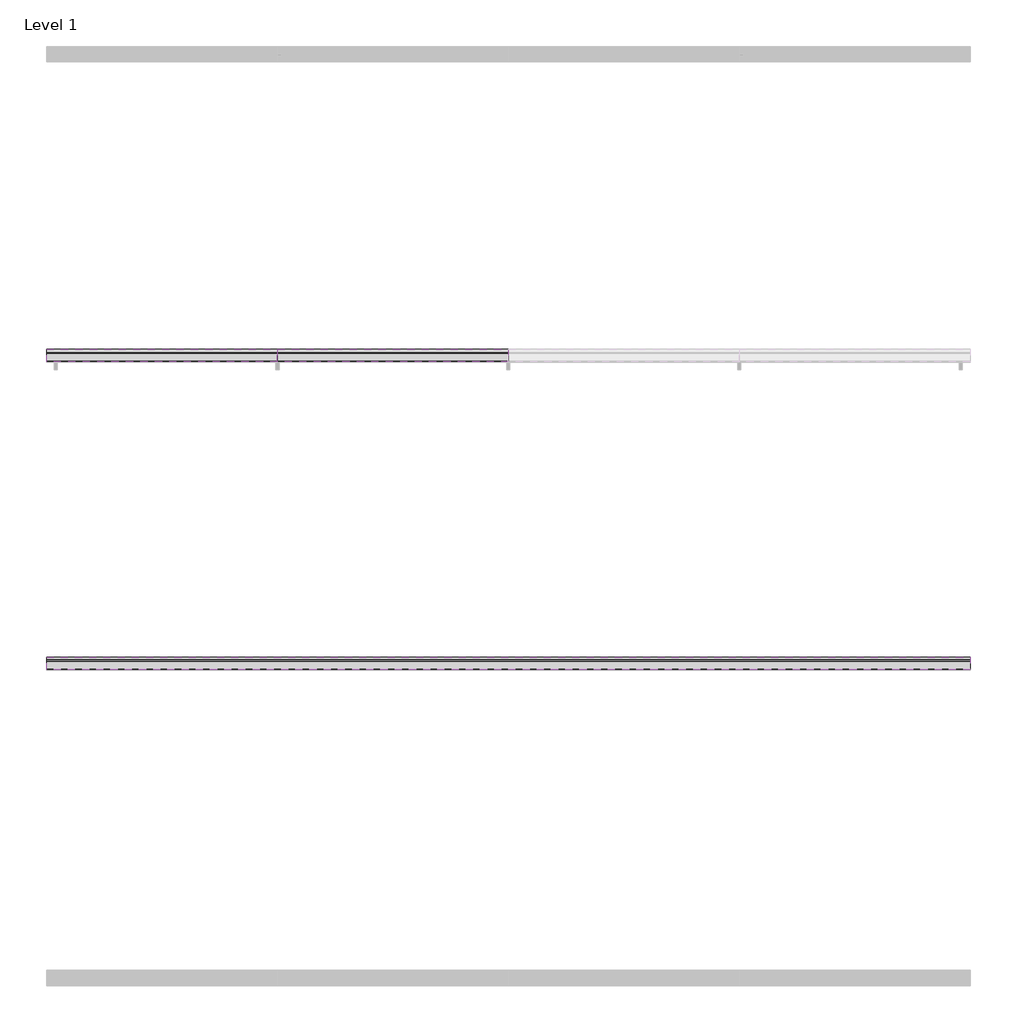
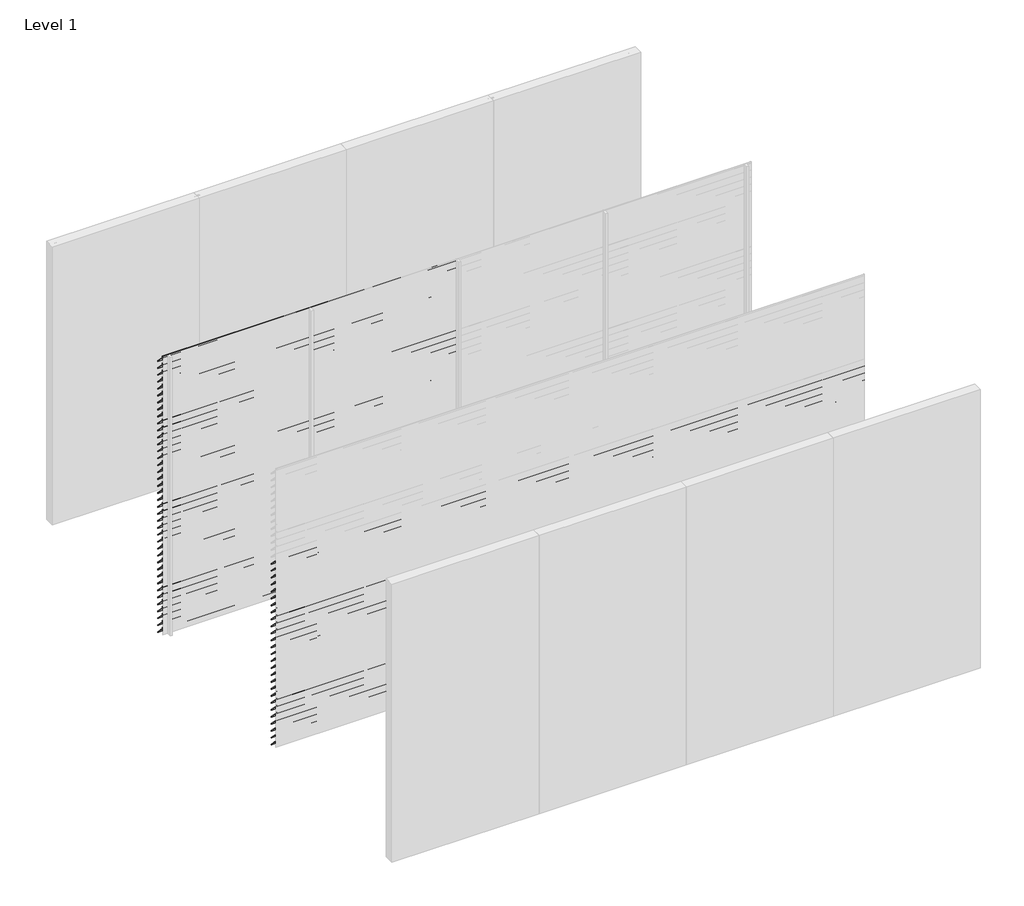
# One storey, part 6 of 9: 94 proxies.
"""IFC4 building model written with IfcOpenShell, lengths in millimetres."""

from ifc_helpers import new_model, si_unit, frame, origin, place, context, project, spatial, polyline, outline, extrude, element, save

model = new_model("IFC4")

# Units and contexts
model_context = context("Model", 3, world=origin())
ifc_project = project(units=[si_unit("LENGTHUNIT", "METRE", prefix="MILLI")], contexts=[model_context])

# Site, building, storey
site = spatial("IfcSite", under=ifc_project)
building = spatial("IfcBuilding", under=site)
storey = spatial("IfcBuildingStorey", under=building, Name="Level 1", Elevation=0.0)

# Proxies
placement = place(None, origin())
element("IfcBuildingElementProxy", 1, Name="Wall Sweeps", at=placement, inside=storey, context=model_context, shape_type="SweptSolid", body=[
    extrude(outline(polyline([(-5995.0, 3000.0), (-5995.0, 2987.7713645), (-5917.0, 2907.0), (-5917.0, 2898.0), (-5997.0, 2980.8424251), (-5997.0, 3000.0), (-5995.0, 3000.0)])), frame((0.0, 0.0, 0.0), z_axis=(1.0, 0.0, 0.0), x_axis=(0.0, 1.0, 0.0)), (0.0, 0.0, 1.0), 1500.0),
])
element("IfcBuildingElementProxy", 2, Name="Wall Sweeps", at=placement, inside=storey, context=model_context, shape_type="SweptSolid", body=[
    extrude(outline(polyline([(-5995.0, 2925.0), (-5995.0, 2912.7713645), (-5917.0, 2832.0), (-5917.0, 2823.0), (-5997.0, 2905.8424251), (-5997.0, 2925.0), (-5995.0, 2925.0)])), frame((0.0, 0.0, 0.0), z_axis=(1.0, 0.0, 0.0), x_axis=(0.0, 1.0, 0.0)), (0.0, 0.0, 1.0), 1500.0),
])
element("IfcBuildingElementProxy", 3, Name="Wall Sweeps", at=placement, inside=storey, context=model_context, shape_type="SweptSolid", body=[
    extrude(outline(polyline([(-5995.0, 2850.0), (-5995.0, 2837.7713645), (-5917.0, 2757.0), (-5917.0, 2748.0), (-5997.0, 2830.8424251), (-5997.0, 2850.0), (-5995.0, 2850.0)])), frame((0.0, 0.0, 0.0), z_axis=(1.0, 0.0, 0.0), x_axis=(0.0, 1.0, 0.0)), (0.0, 0.0, 1.0), 1500.0),
])
element("IfcBuildingElementProxy", 4, Name="Wall Sweeps", at=placement, inside=storey, context=model_context, shape_type="SweptSolid", body=[
    extrude(outline(polyline([(-5995.0, 2775.0), (-5995.0, 2762.7713645), (-5917.0, 2682.0), (-5917.0, 2673.0), (-5997.0, 2755.8424251), (-5997.0, 2775.0), (-5995.0, 2775.0)])), frame((0.0, 0.0, 0.0), z_axis=(1.0, 0.0, 0.0), x_axis=(0.0, 1.0, 0.0)), (0.0, 0.0, 1.0), 1500.0),
])
element("IfcBuildingElementProxy", 5, Name="Wall Sweeps", at=placement, inside=storey, context=model_context, shape_type="SweptSolid", body=[
    extrude(outline(polyline([(-5995.0, 2700.0), (-5995.0, 2687.7713645), (-5917.0, 2607.0), (-5917.0, 2598.0), (-5997.0, 2680.8424251), (-5997.0, 2700.0), (-5995.0, 2700.0)])), frame((0.0, 0.0, 0.0), z_axis=(1.0, 0.0, 0.0), x_axis=(0.0, 1.0, 0.0)), (0.0, 0.0, 1.0), 1500.0),
])
element("IfcBuildingElementProxy", 6, Name="Wall Sweeps", at=placement, inside=storey, context=model_context, shape_type="SweptSolid", body=[
    extrude(outline(polyline([(-5995.0, 2625.0), (-5995.0, 2612.7713645), (-5917.0, 2532.0), (-5917.0, 2523.0), (-5997.0, 2605.8424251), (-5997.0, 2625.0), (-5995.0, 2625.0)])), frame((0.0, 0.0, 0.0), z_axis=(1.0, 0.0, 0.0), x_axis=(0.0, 1.0, 0.0)), (0.0, 0.0, 1.0), 1500.0),
])
element("IfcBuildingElementProxy", 7, Name="Wall Sweeps", at=placement, inside=storey, context=model_context, shape_type="SweptSolid", body=[
    extrude(outline(polyline([(-5995.0, 2550.0), (-5995.0, 2537.7713645), (-5917.0, 2457.0), (-5917.0, 2448.0), (-5997.0, 2530.8424251), (-5997.0, 2550.0), (-5995.0, 2550.0)])), frame((0.0, 0.0, 0.0), z_axis=(1.0, 0.0, 0.0), x_axis=(0.0, 1.0, 0.0)), (0.0, 0.0, 1.0), 1500.0),
])
element("IfcBuildingElementProxy", 8, Name="Wall Sweeps", at=placement, inside=storey, context=model_context, shape_type="SweptSolid", body=[
    extrude(outline(polyline([(-5995.0, 2475.0), (-5995.0, 2462.7713645), (-5917.0, 2382.0), (-5917.0, 2373.0), (-5997.0, 2455.8424251), (-5997.0, 2475.0), (-5995.0, 2475.0)])), frame((0.0, 0.0, 0.0), z_axis=(1.0, 0.0, 0.0), x_axis=(0.0, 1.0, 0.0)), (0.0, 0.0, 1.0), 1500.0),
])
element("IfcBuildingElementProxy", 9, Name="Wall Sweeps", at=placement, inside=storey, context=model_context, shape_type="SweptSolid", body=[
    extrude(outline(polyline([(-5995.0, 2400.0), (-5995.0, 2387.7713645), (-5917.0, 2307.0), (-5917.0, 2298.0), (-5997.0, 2380.8424251), (-5997.0, 2400.0), (-5995.0, 2400.0)])), frame((0.0, 0.0, 0.0), z_axis=(1.0, 0.0, 0.0), x_axis=(0.0, 1.0, 0.0)), (0.0, 0.0, 1.0), 1500.0),
])
element("IfcBuildingElementProxy", 10, Name="Wall Sweeps", at=placement, inside=storey, context=model_context, shape_type="SweptSolid", body=[
    extrude(outline(polyline([(-5995.0, 2325.0), (-5995.0, 2312.7713645), (-5917.0, 2232.0), (-5917.0, 2223.0), (-5997.0, 2305.8424251), (-5997.0, 2325.0), (-5995.0, 2325.0)])), frame((0.0, 0.0, 0.0), z_axis=(1.0, 0.0, 0.0), x_axis=(0.0, 1.0, 0.0)), (0.0, 0.0, 1.0), 1500.0),
])
element("IfcBuildingElementProxy", 11, Name="Wall Sweeps", at=placement, inside=storey, context=model_context, shape_type="SweptSolid", body=[
    extrude(outline(polyline([(-5995.0, 2250.0), (-5995.0, 2237.7713645), (-5917.0, 2157.0), (-5917.0, 2148.0), (-5997.0, 2230.8424251), (-5997.0, 2250.0), (-5995.0, 2250.0)])), frame((0.0, 0.0, 0.0), z_axis=(1.0, 0.0, 0.0), x_axis=(0.0, 1.0, 0.0)), (0.0, 0.0, 1.0), 1500.0),
])
element("IfcBuildingElementProxy", 12, Name="Wall Sweeps", at=placement, inside=storey, context=model_context, shape_type="SweptSolid", body=[
    extrude(outline(polyline([(-5995.0, 2175.0), (-5995.0, 2162.7713645), (-5917.0, 2082.0), (-5917.0, 2073.0), (-5997.0, 2155.8424251), (-5997.0, 2175.0), (-5995.0, 2175.0)])), frame((0.0, 0.0, 0.0), z_axis=(1.0, 0.0, 0.0), x_axis=(0.0, 1.0, 0.0)), (0.0, 0.0, 1.0), 1500.0),
])
element("IfcBuildingElementProxy", 13, Name="Wall Sweeps", at=placement, inside=storey, context=model_context, shape_type="SweptSolid", body=[
    extrude(outline(polyline([(-5995.0, 2100.0), (-5995.0, 2087.7713645), (-5917.0, 2007.0), (-5917.0, 1998.0), (-5997.0, 2080.8424251), (-5997.0, 2100.0), (-5995.0, 2100.0)])), frame((0.0, 0.0, 0.0), z_axis=(1.0, 0.0, 0.0), x_axis=(0.0, 1.0, 0.0)), (0.0, 0.0, 1.0), 1500.0),
])
element("IfcBuildingElementProxy", 14, Name="Wall Sweeps", at=placement, inside=storey, context=model_context, shape_type="SweptSolid", body=[
    extrude(outline(polyline([(-5995.0, 2025.0), (-5995.0, 2012.7713645), (-5917.0, 1932.0), (-5917.0, 1923.0), (-5997.0, 2005.8424251), (-5997.0, 2025.0), (-5995.0, 2025.0)])), frame((0.0, 0.0, 0.0), z_axis=(1.0, 0.0, 0.0), x_axis=(0.0, 1.0, 0.0)), (0.0, 0.0, 1.0), 1500.0),
])
element("IfcBuildingElementProxy", 15, Name="Wall Sweeps", at=placement, inside=storey, context=model_context, shape_type="SweptSolid", body=[
    extrude(outline(polyline([(-5995.0, 1950.0), (-5995.0, 1937.7713645), (-5917.0, 1857.0), (-5917.0, 1848.0), (-5997.0, 1930.8424251), (-5997.0, 1950.0), (-5995.0, 1950.0)])), frame((0.0, 0.0, 0.0), z_axis=(1.0, 0.0, 0.0), x_axis=(0.0, 1.0, 0.0)), (0.0, 0.0, 1.0), 1500.0),
])
element("IfcBuildingElementProxy", 16, Name="Wall Sweeps", at=placement, inside=storey, context=model_context, shape_type="SweptSolid", body=[
    extrude(outline(polyline([(-5995.0, 1875.0), (-5995.0, 1862.7713645), (-5917.0, 1782.0), (-5917.0, 1773.0), (-5997.0, 1855.8424251), (-5997.0, 1875.0), (-5995.0, 1875.0)])), frame((0.0, 0.0, 0.0), z_axis=(1.0, 0.0, 0.0), x_axis=(0.0, 1.0, 0.0)), (0.0, 0.0, 1.0), 1500.0),
])
element("IfcBuildingElementProxy", 17, Name="Wall Sweeps", at=placement, inside=storey, context=model_context, shape_type="SweptSolid", body=[
    extrude(outline(polyline([(-5995.0, 1800.0), (-5995.0, 1787.7713645), (-5917.0, 1707.0), (-5917.0, 1698.0), (-5997.0, 1780.8424251), (-5997.0, 1800.0), (-5995.0, 1800.0)])), frame((0.0, 0.0, 0.0), z_axis=(1.0, 0.0, 0.0), x_axis=(0.0, 1.0, 0.0)), (0.0, 0.0, 1.0), 1500.0),
])
element("IfcBuildingElementProxy", 18, Name="Wall Sweeps", at=placement, inside=storey, context=model_context, shape_type="SweptSolid", body=[
    extrude(outline(polyline([(-5995.0, 1725.0), (-5995.0, 1712.7713645), (-5917.0, 1632.0), (-5917.0, 1623.0), (-5997.0, 1705.8424251), (-5997.0, 1725.0), (-5995.0, 1725.0)])), frame((0.0, 0.0, 0.0), z_axis=(1.0, 0.0, 0.0), x_axis=(0.0, 1.0, 0.0)), (0.0, 0.0, 1.0), 1500.0),
])
element("IfcBuildingElementProxy", 19, Name="Wall Sweeps", at=placement, inside=storey, context=model_context, shape_type="SweptSolid", body=[
    extrude(outline(polyline([(-5995.0, 1650.0), (-5995.0, 1637.7713645), (-5917.0, 1557.0), (-5917.0, 1548.0), (-5997.0, 1630.8424251), (-5997.0, 1650.0), (-5995.0, 1650.0)])), frame((0.0, 0.0, 0.0), z_axis=(1.0, 0.0, 0.0), x_axis=(0.0, 1.0, 0.0)), (0.0, 0.0, 1.0), 1500.0),
])
element("IfcBuildingElementProxy", 20, Name="Wall Sweeps", at=placement, inside=storey, context=model_context, shape_type="SweptSolid", body=[
    extrude(outline(polyline([(-5995.0, 1575.0), (-5995.0, 1562.7713645), (-5917.0, 1482.0), (-5917.0, 1473.0), (-5997.0, 1555.8424251), (-5997.0, 1575.0), (-5995.0, 1575.0)])), frame((0.0, 0.0, 0.0), z_axis=(1.0, 0.0, 0.0), x_axis=(0.0, 1.0, 0.0)), (0.0, 0.0, 1.0), 1500.0),
])
element("IfcBuildingElementProxy", 21, Name="Wall Sweeps", at=placement, inside=storey, context=model_context, shape_type="SweptSolid", body=[
    extrude(outline(polyline([(-5995.0, 1500.0), (-5995.0, 1487.7713645), (-5917.0, 1407.0), (-5917.0, 1398.0), (-5997.0, 1480.8424251), (-5997.0, 1500.0), (-5995.0, 1500.0)])), frame((0.0, 0.0, 0.0), z_axis=(1.0, 0.0, 0.0), x_axis=(0.0, 1.0, 0.0)), (0.0, 0.0, 1.0), 1500.0),
])
element("IfcBuildingElementProxy", 22, Name="Wall Sweeps", at=placement, inside=storey, context=model_context, shape_type="SweptSolid", body=[
    extrude(outline(polyline([(-5995.0, 1425.0), (-5995.0, 1412.7713645), (-5917.0, 1332.0), (-5917.0, 1323.0), (-5997.0, 1405.8424251), (-5997.0, 1425.0), (-5995.0, 1425.0)])), frame((0.0, 0.0, 0.0), z_axis=(1.0, 0.0, 0.0), x_axis=(0.0, 1.0, 0.0)), (0.0, 0.0, 1.0), 1500.0),
])
element("IfcBuildingElementProxy", 23, Name="Wall Sweeps", at=placement, inside=storey, context=model_context, shape_type="SweptSolid", body=[
    extrude(outline(polyline([(-5995.0, 1350.0), (-5995.0, 1337.7713645), (-5917.0, 1257.0), (-5917.0, 1248.0), (-5997.0, 1330.8424251), (-5997.0, 1350.0), (-5995.0, 1350.0)])), frame((0.0, 0.0, 0.0), z_axis=(1.0, 0.0, 0.0), x_axis=(0.0, 1.0, 0.0)), (0.0, 0.0, 1.0), 1500.0),
])
element("IfcBuildingElementProxy", 24, Name="Wall Sweeps", at=placement, inside=storey, context=model_context, shape_type="SweptSolid", body=[
    extrude(outline(polyline([(-5995.0, 1275.0), (-5995.0, 1262.7713645), (-5917.0, 1182.0), (-5917.0, 1173.0), (-5997.0, 1255.8424251), (-5997.0, 1275.0), (-5995.0, 1275.0)])), frame((0.0, 0.0, 0.0), z_axis=(1.0, 0.0, 0.0), x_axis=(0.0, 1.0, 0.0)), (0.0, 0.0, 1.0), 1500.0),
])
element("IfcBuildingElementProxy", 25, Name="Wall Sweeps", at=placement, inside=storey, context=model_context, shape_type="SweptSolid", body=[
    extrude(outline(polyline([(-5995.0, 1200.0), (-5995.0, 1187.7713645), (-5917.0, 1107.0), (-5917.0, 1098.0), (-5997.0, 1180.8424251), (-5997.0, 1200.0), (-5995.0, 1200.0)])), frame((0.0, 0.0, 0.0), z_axis=(1.0, 0.0, 0.0), x_axis=(0.0, 1.0, 0.0)), (0.0, 0.0, 1.0), 1500.0),
])
element("IfcBuildingElementProxy", 26, Name="Wall Sweeps", at=placement, inside=storey, context=model_context, shape_type="SweptSolid", body=[
    extrude(outline(polyline([(-5995.0, 1125.0), (-5995.0, 1112.7713645), (-5917.0, 1032.0), (-5917.0, 1023.0), (-5997.0, 1105.8424251), (-5997.0, 1125.0), (-5995.0, 1125.0)])), frame((0.0, 0.0, 0.0), z_axis=(1.0, 0.0, 0.0), x_axis=(0.0, 1.0, 0.0)), (0.0, 0.0, 1.0), 1500.0),
])
element("IfcBuildingElementProxy", 27, Name="Wall Sweeps", at=placement, inside=storey, context=model_context, shape_type="SweptSolid", body=[
    extrude(outline(polyline([(-5995.0, 1050.0), (-5995.0, 1037.7713645), (-5917.0, 957.0), (-5917.0, 948.0), (-5997.0, 1030.8424251), (-5997.0, 1050.0), (-5995.0, 1050.0)])), frame((0.0, 0.0, 0.0), z_axis=(1.0, 0.0, 0.0), x_axis=(0.0, 1.0, 0.0)), (0.0, 0.0, 1.0), 1500.0),
])
element("IfcBuildingElementProxy", 28, Name="Wall Sweeps", at=placement, inside=storey, context=model_context, shape_type="SweptSolid", body=[
    extrude(outline(polyline([(-5995.0, 975.0), (-5995.0, 962.7713645), (-5917.0, 882.0), (-5917.0, 873.0), (-5997.0, 955.8424251), (-5997.0, 975.0), (-5995.0, 975.0)])), frame((0.0, 0.0, 0.0), z_axis=(1.0, 0.0, 0.0), x_axis=(0.0, 1.0, 0.0)), (0.0, 0.0, 1.0), 1500.0),
])
element("IfcBuildingElementProxy", 29, Name="Wall Sweeps", at=placement, inside=storey, context=model_context, shape_type="SweptSolid", body=[
    extrude(outline(polyline([(-5995.0, 900.0), (-5995.0, 887.7713645), (-5917.0, 807.0), (-5917.0, 798.0), (-5997.0, 880.8424251), (-5997.0, 900.0), (-5995.0, 900.0)])), frame((0.0, 0.0, 0.0), z_axis=(1.0, 0.0, 0.0), x_axis=(0.0, 1.0, 0.0)), (0.0, 0.0, 1.0), 1500.0),
])
element("IfcBuildingElementProxy", 30, Name="Wall Sweeps", at=placement, inside=storey, context=model_context, shape_type="SweptSolid", body=[
    extrude(outline(polyline([(-5995.0, 825.0), (-5995.0, 812.7713645), (-5917.0, 732.0), (-5917.0, 723.0), (-5997.0, 805.8424251), (-5997.0, 825.0), (-5995.0, 825.0)])), frame((0.0, 0.0, 0.0), z_axis=(1.0, 0.0, 0.0), x_axis=(0.0, 1.0, 0.0)), (0.0, 0.0, 1.0), 1500.0),
])
element("IfcBuildingElementProxy", 31, Name="Wall Sweeps", at=placement, inside=storey, context=model_context, shape_type="SweptSolid", body=[
    extrude(outline(polyline([(-5995.0, 750.0), (-5995.0, 737.7713645), (-5917.0, 657.0), (-5917.0, 648.0), (-5997.0, 730.8424251), (-5997.0, 750.0), (-5995.0, 750.0)])), frame((0.0, 0.0, 0.0), z_axis=(1.0, 0.0, 0.0), x_axis=(0.0, 1.0, 0.0)), (0.0, 0.0, 1.0), 1500.0),
])
element("IfcBuildingElementProxy", 32, Name="Wall Sweeps", at=placement, inside=storey, context=model_context, shape_type="SweptSolid", body=[
    extrude(outline(polyline([(-5995.0, 675.0), (-5995.0, 662.7713645), (-5917.0, 582.0), (-5917.0, 573.0), (-5997.0, 655.8424251), (-5997.0, 675.0), (-5995.0, 675.0)])), frame((0.0, 0.0, 0.0), z_axis=(1.0, 0.0, 0.0), x_axis=(0.0, 1.0, 0.0)), (0.0, 0.0, 1.0), 1500.0),
])
element("IfcBuildingElementProxy", 33, Name="Wall Sweeps", at=placement, inside=storey, context=model_context, shape_type="SweptSolid", body=[
    extrude(outline(polyline([(-5995.0, 600.0), (-5995.0, 587.7713645), (-5917.0, 507.0), (-5917.0, 498.0), (-5997.0, 580.8424251), (-5997.0, 600.0), (-5995.0, 600.0)])), frame((0.0, 0.0, 0.0), z_axis=(1.0, 0.0, 0.0), x_axis=(0.0, 1.0, 0.0)), (0.0, 0.0, 1.0), 1500.0),
])
element("IfcBuildingElementProxy", 34, Name="Wall Sweeps", at=placement, inside=storey, context=model_context, shape_type="SweptSolid", body=[
    extrude(outline(polyline([(-5995.0, 525.0), (-5995.0, 512.7713645), (-5917.0, 432.0), (-5917.0, 423.0), (-5997.0, 505.8424251), (-5997.0, 525.0), (-5995.0, 525.0)])), frame((0.0, 0.0, 0.0), z_axis=(1.0, 0.0, 0.0), x_axis=(0.0, 1.0, 0.0)), (0.0, 0.0, 1.0), 1500.0),
])
element("IfcBuildingElementProxy", 35, Name="Wall Sweeps", at=placement, inside=storey, context=model_context, shape_type="SweptSolid", body=[
    extrude(outline(polyline([(-5995.0, 450.0), (-5995.0, 437.7713645), (-5917.0, 357.0), (-5917.0, 348.0), (-5997.0, 430.8424251), (-5997.0, 450.0), (-5995.0, 450.0)])), frame((0.0, 0.0, 0.0), z_axis=(1.0, 0.0, 0.0), x_axis=(0.0, 1.0, 0.0)), (0.0, 0.0, 1.0), 1500.0),
])
element("IfcBuildingElementProxy", 36, Name="Wall Sweeps", at=placement, inside=storey, context=model_context, shape_type="SweptSolid", body=[
    extrude(outline(polyline([(-5995.0, 375.0), (-5995.0, 362.7713645), (-5917.0, 282.0), (-5917.0, 273.0), (-5997.0, 355.8424251), (-5997.0, 375.0), (-5995.0, 375.0)])), frame((0.0, 0.0, 0.0), z_axis=(1.0, 0.0, 0.0), x_axis=(0.0, 1.0, 0.0)), (0.0, 0.0, 1.0), 1500.0),
])
element("IfcBuildingElementProxy", 37, Name="Wall Sweeps", at=placement, inside=storey, context=model_context, shape_type="SweptSolid", body=[
    extrude(outline(polyline([(-5995.0, 300.0), (-5995.0, 287.7713645), (-5917.0, 207.0), (-5917.0, 198.0), (-5997.0, 280.8424251), (-5997.0, 300.0), (-5995.0, 300.0)])), frame((0.0, 0.0, 0.0), z_axis=(1.0, 0.0, 0.0), x_axis=(0.0, 1.0, 0.0)), (0.0, 0.0, 1.0), 1500.0),
])
element("IfcBuildingElementProxy", 38, Name="Wall Sweeps", at=placement, inside=storey, context=model_context, shape_type="SweptSolid", body=[
    extrude(outline(polyline([(-5995.0, 225.0), (-5995.0, 212.7713645), (-5917.0, 132.0), (-5917.0, 123.0), (-5997.0, 205.8424251), (-5997.0, 225.0), (-5995.0, 225.0)])), frame((0.0, 0.0, 0.0), z_axis=(1.0, 0.0, 0.0), x_axis=(0.0, 1.0, 0.0)), (0.0, 0.0, 1.0), 1500.0),
])
element("IfcBuildingElementProxy", 39, Name="Wall Sweeps", at=placement, inside=storey, context=model_context, shape_type="SweptSolid", body=[
    extrude(outline(polyline([(-5995.0, 150.0), (-5995.0, 137.7713645), (-5917.0, 57.0), (-5917.0, 48.0), (-5997.0, 130.8424251), (-5997.0, 150.0), (-5995.0, 150.0)])), frame((0.0, 0.0, 0.0), z_axis=(1.0, 0.0, 0.0), x_axis=(0.0, 1.0, 0.0)), (0.0, 0.0, 1.0), 1500.0),
])
element("IfcBuildingElementProxy", 40, Name="Wall Sweeps", at=placement, inside=storey, context=model_context, shape_type="SweptSolid", body=[
    extrude(outline(polyline([(-5995.0, 75.0), (-5995.0, 62.7713645), (-5917.0, -18.0), (-5917.0, -27.0), (-5997.0, 55.8424251), (-5997.0, 75.0), (-5995.0, 75.0)])), frame((0.0, 0.0, 0.0), z_axis=(1.0, 0.0, 0.0), x_axis=(0.0, 1.0, 0.0)), (0.0, 0.0, 1.0), 1500.0),
])
element("IfcBuildingElementProxy", 41, Name="Wall Sweeps", at=placement, inside=storey, context=model_context, shape_type="SweptSolid", body=[
    extrude(outline(polyline([(-5995.0, 3000.0), (-5995.0, 2987.7713645), (-5917.0, 2907.0), (-5917.0, 2898.0), (-5997.0, 2980.8424251), (-5997.0, 3000.0), (-5995.0, 3000.0)])), frame((1500.0, 0.0, 0.0), z_axis=(1.0, 0.0, 0.0), x_axis=(0.0, 1.0, 0.0)), (0.0, 0.0, 1.0), 1500.0),
])
element("IfcBuildingElementProxy", 42, Name="Wall Sweeps", at=placement, inside=storey, context=model_context, shape_type="SweptSolid", body=[
    extrude(outline(polyline([(-5995.0, 2925.0), (-5995.0, 2912.7713645), (-5917.0, 2832.0), (-5917.0, 2823.0), (-5997.0, 2905.8424251), (-5997.0, 2925.0), (-5995.0, 2925.0)])), frame((1500.0, 0.0, 0.0), z_axis=(1.0, 0.0, 0.0), x_axis=(0.0, 1.0, 0.0)), (0.0, 0.0, 1.0), 1500.0),
])
element("IfcBuildingElementProxy", 43, Name="Wall Sweeps", at=placement, inside=storey, context=model_context, shape_type="SweptSolid", body=[
    extrude(outline(polyline([(-5995.0, 2850.0), (-5995.0, 2837.7713645), (-5917.0, 2757.0), (-5917.0, 2748.0), (-5997.0, 2830.8424251), (-5997.0, 2850.0), (-5995.0, 2850.0)])), frame((1500.0, 0.0, 0.0), z_axis=(1.0, 0.0, 0.0), x_axis=(0.0, 1.0, 0.0)), (0.0, 0.0, 1.0), 1500.0),
])
element("IfcBuildingElementProxy", 44, Name="Wall Sweeps", at=placement, inside=storey, context=model_context, shape_type="SweptSolid", body=[
    extrude(outline(polyline([(-5995.0, 2775.0), (-5995.0, 2762.7713645), (-5917.0, 2682.0), (-5917.0, 2673.0), (-5997.0, 2755.8424251), (-5997.0, 2775.0), (-5995.0, 2775.0)])), frame((1500.0, 0.0, 0.0), z_axis=(1.0, 0.0, 0.0), x_axis=(0.0, 1.0, 0.0)), (0.0, 0.0, 1.0), 1500.0),
])
element("IfcBuildingElementProxy", 45, Name="Wall Sweeps", at=placement, inside=storey, context=model_context, shape_type="SweptSolid", body=[
    extrude(outline(polyline([(-5995.0, 2700.0), (-5995.0, 2687.7713645), (-5917.0, 2607.0), (-5917.0, 2598.0), (-5997.0, 2680.8424251), (-5997.0, 2700.0), (-5995.0, 2700.0)])), frame((1500.0, 0.0, 0.0), z_axis=(1.0, 0.0, 0.0), x_axis=(0.0, 1.0, 0.0)), (0.0, 0.0, 1.0), 1500.0),
])
element("IfcBuildingElementProxy", 46, Name="Wall Sweeps", at=placement, inside=storey, context=model_context, shape_type="SweptSolid", body=[
    extrude(outline(polyline([(-5995.0, 2625.0), (-5995.0, 2612.7713645), (-5917.0, 2532.0), (-5917.0, 2523.0), (-5997.0, 2605.8424251), (-5997.0, 2625.0), (-5995.0, 2625.0)])), frame((1500.0, 0.0, 0.0), z_axis=(1.0, 0.0, 0.0), x_axis=(0.0, 1.0, 0.0)), (0.0, 0.0, 1.0), 1500.0),
])
element("IfcBuildingElementProxy", 47, Name="Wall Sweeps", at=placement, inside=storey, context=model_context, shape_type="SweptSolid", body=[
    extrude(outline(polyline([(-5995.0, 2550.0), (-5995.0, 2537.7713645), (-5917.0, 2457.0), (-5917.0, 2448.0), (-5997.0, 2530.8424251), (-5997.0, 2550.0), (-5995.0, 2550.0)])), frame((1500.0, 0.0, 0.0), z_axis=(1.0, 0.0, 0.0), x_axis=(0.0, 1.0, 0.0)), (0.0, 0.0, 1.0), 1500.0),
])
element("IfcBuildingElementProxy", 48, Name="Wall Sweeps", at=placement, inside=storey, context=model_context, shape_type="SweptSolid", body=[
    extrude(outline(polyline([(-5995.0, 2475.0), (-5995.0, 2462.7713645), (-5917.0, 2382.0), (-5917.0, 2373.0), (-5997.0, 2455.8424251), (-5997.0, 2475.0), (-5995.0, 2475.0)])), frame((1500.0, 0.0, 0.0), z_axis=(1.0, 0.0, 0.0), x_axis=(0.0, 1.0, 0.0)), (0.0, 0.0, 1.0), 1500.0),
])
element("IfcBuildingElementProxy", 49, Name="Wall Sweeps", at=placement, inside=storey, context=model_context, shape_type="SweptSolid", body=[
    extrude(outline(polyline([(-5995.0, 2400.0), (-5995.0, 2387.7713645), (-5917.0, 2307.0), (-5917.0, 2298.0), (-5997.0, 2380.8424251), (-5997.0, 2400.0), (-5995.0, 2400.0)])), frame((1500.0, 0.0, 0.0), z_axis=(1.0, 0.0, 0.0), x_axis=(0.0, 1.0, 0.0)), (0.0, 0.0, 1.0), 1500.0),
])
element("IfcBuildingElementProxy", 50, Name="Wall Sweeps", at=placement, inside=storey, context=model_context, shape_type="SweptSolid", body=[
    extrude(outline(polyline([(-5995.0, 2325.0), (-5995.0, 2312.7713645), (-5917.0, 2232.0), (-5917.0, 2223.0), (-5997.0, 2305.8424251), (-5997.0, 2325.0), (-5995.0, 2325.0)])), frame((1500.0, 0.0, 0.0), z_axis=(1.0, 0.0, 0.0), x_axis=(0.0, 1.0, 0.0)), (0.0, 0.0, 1.0), 1500.0),
])
element("IfcBuildingElementProxy", 51, Name="Wall Sweeps", at=placement, inside=storey, context=model_context, shape_type="SweptSolid", body=[
    extrude(outline(polyline([(-5995.0, 2250.0), (-5995.0, 2237.7713645), (-5917.0, 2157.0), (-5917.0, 2148.0), (-5997.0, 2230.8424251), (-5997.0, 2250.0), (-5995.0, 2250.0)])), frame((1500.0, 0.0, 0.0), z_axis=(1.0, 0.0, 0.0), x_axis=(0.0, 1.0, 0.0)), (0.0, 0.0, 1.0), 1500.0),
])
element("IfcBuildingElementProxy", 52, Name="Wall Sweeps", at=placement, inside=storey, context=model_context, shape_type="SweptSolid", body=[
    extrude(outline(polyline([(-5995.0, 2175.0), (-5995.0, 2162.7713645), (-5917.0, 2082.0), (-5917.0, 2073.0), (-5997.0, 2155.8424251), (-5997.0, 2175.0), (-5995.0, 2175.0)])), frame((1500.0, 0.0, 0.0), z_axis=(1.0, 0.0, 0.0), x_axis=(0.0, 1.0, 0.0)), (0.0, 0.0, 1.0), 1500.0),
])
element("IfcBuildingElementProxy", 53, Name="Wall Sweeps", at=placement, inside=storey, context=model_context, shape_type="SweptSolid", body=[
    extrude(outline(polyline([(-5995.0, 2100.0), (-5995.0, 2087.7713645), (-5917.0, 2007.0), (-5917.0, 1998.0), (-5997.0, 2080.8424251), (-5997.0, 2100.0), (-5995.0, 2100.0)])), frame((1500.0, 0.0, 0.0), z_axis=(1.0, 0.0, 0.0), x_axis=(0.0, 1.0, 0.0)), (0.0, 0.0, 1.0), 1500.0),
])
element("IfcBuildingElementProxy", 54, Name="Wall Sweeps", at=placement, inside=storey, context=model_context, shape_type="SweptSolid", body=[
    extrude(outline(polyline([(-5995.0, 2025.0), (-5995.0, 2012.7713645), (-5917.0, 1932.0), (-5917.0, 1923.0), (-5997.0, 2005.8424251), (-5997.0, 2025.0), (-5995.0, 2025.0)])), frame((1500.0, 0.0, 0.0), z_axis=(1.0, 0.0, 0.0), x_axis=(0.0, 1.0, 0.0)), (0.0, 0.0, 1.0), 1500.0),
])
element("IfcBuildingElementProxy", 55, Name="Wall Sweeps", at=placement, inside=storey, context=model_context, shape_type="SweptSolid", body=[
    extrude(outline(polyline([(-5995.0, 1950.0), (-5995.0, 1937.7713645), (-5917.0, 1857.0), (-5917.0, 1848.0), (-5997.0, 1930.8424251), (-5997.0, 1950.0), (-5995.0, 1950.0)])), frame((1500.0, 0.0, 0.0), z_axis=(1.0, 0.0, 0.0), x_axis=(0.0, 1.0, 0.0)), (0.0, 0.0, 1.0), 1500.0),
])
element("IfcBuildingElementProxy", 56, Name="Wall Sweeps", at=placement, inside=storey, context=model_context, shape_type="SweptSolid", body=[
    extrude(outline(polyline([(-5995.0, 1875.0), (-5995.0, 1862.7713645), (-5917.0, 1782.0), (-5917.0, 1773.0), (-5997.0, 1855.8424251), (-5997.0, 1875.0), (-5995.0, 1875.0)])), frame((1500.0, 0.0, 0.0), z_axis=(1.0, 0.0, 0.0), x_axis=(0.0, 1.0, 0.0)), (0.0, 0.0, 1.0), 1500.0),
])
element("IfcBuildingElementProxy", 57, Name="Wall Sweeps", at=placement, inside=storey, context=model_context, shape_type="SweptSolid", body=[
    extrude(outline(polyline([(-5995.0, 1800.0), (-5995.0, 1787.7713645), (-5917.0, 1707.0), (-5917.0, 1698.0), (-5997.0, 1780.8424251), (-5997.0, 1800.0), (-5995.0, 1800.0)])), frame((1500.0, 0.0, 0.0), z_axis=(1.0, 0.0, 0.0), x_axis=(0.0, 1.0, 0.0)), (0.0, 0.0, 1.0), 1500.0),
])
element("IfcBuildingElementProxy", 58, Name="Wall Sweeps", at=placement, inside=storey, context=model_context, shape_type="SweptSolid", body=[
    extrude(outline(polyline([(-5995.0, 1725.0), (-5995.0, 1712.7713645), (-5917.0, 1632.0), (-5917.0, 1623.0), (-5997.0, 1705.8424251), (-5997.0, 1725.0), (-5995.0, 1725.0)])), frame((1500.0, 0.0, 0.0), z_axis=(1.0, 0.0, 0.0), x_axis=(0.0, 1.0, 0.0)), (0.0, 0.0, 1.0), 1500.0),
])
element("IfcBuildingElementProxy", 59, Name="Wall Sweeps", at=placement, inside=storey, context=model_context, shape_type="SweptSolid", body=[
    extrude(outline(polyline([(-5995.0, 1650.0), (-5995.0, 1637.7713645), (-5917.0, 1557.0), (-5917.0, 1548.0), (-5997.0, 1630.8424251), (-5997.0, 1650.0), (-5995.0, 1650.0)])), frame((1500.0, 0.0, 0.0), z_axis=(1.0, 0.0, 0.0), x_axis=(0.0, 1.0, 0.0)), (0.0, 0.0, 1.0), 1500.0),
])
element("IfcBuildingElementProxy", 60, Name="Wall Sweeps", at=placement, inside=storey, context=model_context, shape_type="SweptSolid", body=[
    extrude(outline(polyline([(-5995.0, 1575.0), (-5995.0, 1562.7713645), (-5917.0, 1482.0), (-5917.0, 1473.0), (-5997.0, 1555.8424251), (-5997.0, 1575.0), (-5995.0, 1575.0)])), frame((1500.0, 0.0, 0.0), z_axis=(1.0, 0.0, 0.0), x_axis=(0.0, 1.0, 0.0)), (0.0, 0.0, 1.0), 1500.0),
])
element("IfcBuildingElementProxy", 61, Name="Wall Sweeps", at=placement, inside=storey, context=model_context, shape_type="SweptSolid", body=[
    extrude(outline(polyline([(-5995.0, 1500.0), (-5995.0, 1487.7713645), (-5917.0, 1407.0), (-5917.0, 1398.0), (-5997.0, 1480.8424251), (-5997.0, 1500.0), (-5995.0, 1500.0)])), frame((1500.0, 0.0, 0.0), z_axis=(1.0, 0.0, 0.0), x_axis=(0.0, 1.0, 0.0)), (0.0, 0.0, 1.0), 1500.0),
])
element("IfcBuildingElementProxy", 62, Name="Wall Sweeps", at=placement, inside=storey, context=model_context, shape_type="SweptSolid", body=[
    extrude(outline(polyline([(-5995.0, 1425.0), (-5995.0, 1412.7713645), (-5917.0, 1332.0), (-5917.0, 1323.0), (-5997.0, 1405.8424251), (-5997.0, 1425.0), (-5995.0, 1425.0)])), frame((1500.0, 0.0, 0.0), z_axis=(1.0, 0.0, 0.0), x_axis=(0.0, 1.0, 0.0)), (0.0, 0.0, 1.0), 1500.0),
])
element("IfcBuildingElementProxy", 63, Name="Wall Sweeps", at=placement, inside=storey, context=model_context, shape_type="SweptSolid", body=[
    extrude(outline(polyline([(-5995.0, 1350.0), (-5995.0, 1337.7713645), (-5917.0, 1257.0), (-5917.0, 1248.0), (-5997.0, 1330.8424251), (-5997.0, 1350.0), (-5995.0, 1350.0)])), frame((1500.0, 0.0, 0.0), z_axis=(1.0, 0.0, 0.0), x_axis=(0.0, 1.0, 0.0)), (0.0, 0.0, 1.0), 1500.0),
])
element("IfcBuildingElementProxy", 64, Name="Wall Sweeps", at=placement, inside=storey, context=model_context, shape_type="SweptSolid", body=[
    extrude(outline(polyline([(-5995.0, 1275.0), (-5995.0, 1262.7713645), (-5917.0, 1182.0), (-5917.0, 1173.0), (-5997.0, 1255.8424251), (-5997.0, 1275.0), (-5995.0, 1275.0)])), frame((1500.0, 0.0, 0.0), z_axis=(1.0, 0.0, 0.0), x_axis=(0.0, 1.0, 0.0)), (0.0, 0.0, 1.0), 1500.0),
])
element("IfcBuildingElementProxy", 65, Name="Wall Sweeps", at=placement, inside=storey, context=model_context, shape_type="SweptSolid", body=[
    extrude(outline(polyline([(-5995.0, 1200.0), (-5995.0, 1187.7713645), (-5917.0, 1107.0), (-5917.0, 1098.0), (-5997.0, 1180.8424251), (-5997.0, 1200.0), (-5995.0, 1200.0)])), frame((1500.0, 0.0, 0.0), z_axis=(1.0, 0.0, 0.0), x_axis=(0.0, 1.0, 0.0)), (0.0, 0.0, 1.0), 1500.0),
])
element("IfcBuildingElementProxy", 66, Name="Wall Sweeps", at=placement, inside=storey, context=model_context, shape_type="SweptSolid", body=[
    extrude(outline(polyline([(-5995.0, 1125.0), (-5995.0, 1112.7713645), (-5917.0, 1032.0), (-5917.0, 1023.0), (-5997.0, 1105.8424251), (-5997.0, 1125.0), (-5995.0, 1125.0)])), frame((1500.0, 0.0, 0.0), z_axis=(1.0, 0.0, 0.0), x_axis=(0.0, 1.0, 0.0)), (0.0, 0.0, 1.0), 1500.0),
])
element("IfcBuildingElementProxy", 67, Name="Wall Sweeps", at=placement, inside=storey, context=model_context, shape_type="SweptSolid", body=[
    extrude(outline(polyline([(-5995.0, 1050.0), (-5995.0, 1037.7713645), (-5917.0, 957.0), (-5917.0, 948.0), (-5997.0, 1030.8424251), (-5997.0, 1050.0), (-5995.0, 1050.0)])), frame((1500.0, 0.0, 0.0), z_axis=(1.0, 0.0, 0.0), x_axis=(0.0, 1.0, 0.0)), (0.0, 0.0, 1.0), 1500.0),
])
element("IfcBuildingElementProxy", 68, Name="Wall Sweeps", at=placement, inside=storey, context=model_context, shape_type="SweptSolid", body=[
    extrude(outline(polyline([(-7995.0, 2025.0), (-7995.0, 2012.7713645), (-7917.0, 1932.0), (-7917.0, 1923.0), (-7997.0, 2005.8424251), (-7997.0, 2025.0), (-7995.0, 2025.0)])), frame((0.0, 0.0, 0.0), z_axis=(1.0, 0.0, 0.0), x_axis=(0.0, 1.0, 0.0)), (0.0, 0.0, 1.0), 6000.0),
])
element("IfcBuildingElementProxy", 69, Name="Wall Sweeps", at=placement, inside=storey, context=model_context, shape_type="SweptSolid", body=[
    extrude(outline(polyline([(-7995.0, 1950.0), (-7995.0, 1937.7713645), (-7917.0, 1857.0), (-7917.0, 1848.0), (-7997.0, 1930.8424251), (-7997.0, 1950.0), (-7995.0, 1950.0)])), frame((0.0, 0.0, 0.0), z_axis=(1.0, 0.0, 0.0), x_axis=(0.0, 1.0, 0.0)), (0.0, 0.0, 1.0), 6000.0),
])
element("IfcBuildingElementProxy", 70, Name="Wall Sweeps", at=placement, inside=storey, context=model_context, shape_type="SweptSolid", body=[
    extrude(outline(polyline([(-7995.0, 1875.0), (-7995.0, 1862.7713645), (-7917.0, 1782.0), (-7917.0, 1773.0), (-7997.0, 1855.8424251), (-7997.0, 1875.0), (-7995.0, 1875.0)])), frame((0.0, 0.0, 0.0), z_axis=(1.0, 0.0, 0.0), x_axis=(0.0, 1.0, 0.0)), (0.0, 0.0, 1.0), 6000.0),
])
element("IfcBuildingElementProxy", 71, Name="Wall Sweeps", at=placement, inside=storey, context=model_context, shape_type="SweptSolid", body=[
    extrude(outline(polyline([(-7995.0, 1800.0), (-7995.0, 1787.7713645), (-7917.0, 1707.0), (-7917.0, 1698.0), (-7997.0, 1780.8424251), (-7997.0, 1800.0), (-7995.0, 1800.0)])), frame((0.0, 0.0, 0.0), z_axis=(1.0, 0.0, 0.0), x_axis=(0.0, 1.0, 0.0)), (0.0, 0.0, 1.0), 6000.0),
])
element("IfcBuildingElementProxy", 72, Name="Wall Sweeps", at=placement, inside=storey, context=model_context, shape_type="SweptSolid", body=[
    extrude(outline(polyline([(-7995.0, 1725.0), (-7995.0, 1712.7713645), (-7917.0, 1632.0), (-7917.0, 1623.0), (-7997.0, 1705.8424251), (-7997.0, 1725.0), (-7995.0, 1725.0)])), frame((0.0, 0.0, 0.0), z_axis=(1.0, 0.0, 0.0), x_axis=(0.0, 1.0, 0.0)), (0.0, 0.0, 1.0), 6000.0),
])
element("IfcBuildingElementProxy", 73, Name="Wall Sweeps", at=placement, inside=storey, context=model_context, shape_type="SweptSolid", body=[
    extrude(outline(polyline([(-7995.0, 1650.0), (-7995.0, 1637.7713645), (-7917.0, 1557.0), (-7917.0, 1548.0), (-7997.0, 1630.8424251), (-7997.0, 1650.0), (-7995.0, 1650.0)])), frame((0.0, 0.0, 0.0), z_axis=(1.0, 0.0, 0.0), x_axis=(0.0, 1.0, 0.0)), (0.0, 0.0, 1.0), 6000.0),
])
element("IfcBuildingElementProxy", 74, Name="Wall Sweeps", at=placement, inside=storey, context=model_context, shape_type="SweptSolid", body=[
    extrude(outline(polyline([(-7995.0, 1575.0), (-7995.0, 1562.7713645), (-7917.0, 1482.0), (-7917.0, 1473.0), (-7997.0, 1555.8424251), (-7997.0, 1575.0), (-7995.0, 1575.0)])), frame((0.0, 0.0, 0.0), z_axis=(1.0, 0.0, 0.0), x_axis=(0.0, 1.0, 0.0)), (0.0, 0.0, 1.0), 6000.0),
])
element("IfcBuildingElementProxy", 75, Name="Wall Sweeps", at=placement, inside=storey, context=model_context, shape_type="SweptSolid", body=[
    extrude(outline(polyline([(-7995.0, 1500.0), (-7995.0, 1487.7713645), (-7917.0, 1407.0), (-7917.0, 1398.0), (-7997.0, 1480.8424251), (-7997.0, 1500.0), (-7995.0, 1500.0)])), frame((0.0, 0.0, 0.0), z_axis=(1.0, 0.0, 0.0), x_axis=(0.0, 1.0, 0.0)), (0.0, 0.0, 1.0), 6000.0),
])
element("IfcBuildingElementProxy", 76, Name="Wall Sweeps", at=placement, inside=storey, context=model_context, shape_type="SweptSolid", body=[
    extrude(outline(polyline([(-7995.0, 1425.0), (-7995.0, 1412.7713645), (-7917.0, 1332.0), (-7917.0, 1323.0), (-7997.0, 1405.8424251), (-7997.0, 1425.0), (-7995.0, 1425.0)])), frame((0.0, 0.0, 0.0), z_axis=(1.0, 0.0, 0.0), x_axis=(0.0, 1.0, 0.0)), (0.0, 0.0, 1.0), 6000.0),
])
element("IfcBuildingElementProxy", 77, Name="Wall Sweeps", at=placement, inside=storey, context=model_context, shape_type="SweptSolid", body=[
    extrude(outline(polyline([(-7995.0, 1350.0), (-7995.0, 1337.7713645), (-7917.0, 1257.0), (-7917.0, 1248.0), (-7997.0, 1330.8424251), (-7997.0, 1350.0), (-7995.0, 1350.0)])), frame((0.0, 0.0, 0.0), z_axis=(1.0, 0.0, 0.0), x_axis=(0.0, 1.0, 0.0)), (0.0, 0.0, 1.0), 6000.0),
])
element("IfcBuildingElementProxy", 78, Name="Wall Sweeps", at=placement, inside=storey, context=model_context, shape_type="SweptSolid", body=[
    extrude(outline(polyline([(-7995.0, 1275.0), (-7995.0, 1262.7713645), (-7917.0, 1182.0), (-7917.0, 1173.0), (-7997.0, 1255.8424251), (-7997.0, 1275.0), (-7995.0, 1275.0)])), frame((0.0, 0.0, 0.0), z_axis=(1.0, 0.0, 0.0), x_axis=(0.0, 1.0, 0.0)), (0.0, 0.0, 1.0), 6000.0),
])
element("IfcBuildingElementProxy", 79, Name="Wall Sweeps", at=placement, inside=storey, context=model_context, shape_type="SweptSolid", body=[
    extrude(outline(polyline([(-7995.0, 1200.0), (-7995.0, 1187.7713645), (-7917.0, 1107.0), (-7917.0, 1098.0), (-7997.0, 1180.8424251), (-7997.0, 1200.0), (-7995.0, 1200.0)])), frame((0.0, 0.0, 0.0), z_axis=(1.0, 0.0, 0.0), x_axis=(0.0, 1.0, 0.0)), (0.0, 0.0, 1.0), 6000.0),
])
element("IfcBuildingElementProxy", 80, Name="Wall Sweeps", at=placement, inside=storey, context=model_context, shape_type="SweptSolid", body=[
    extrude(outline(polyline([(-7995.0, 1125.0), (-7995.0, 1112.7713645), (-7917.0, 1032.0), (-7917.0, 1023.0), (-7997.0, 1105.8424251), (-7997.0, 1125.0), (-7995.0, 1125.0)])), frame((0.0, 0.0, 0.0), z_axis=(1.0, 0.0, 0.0), x_axis=(0.0, 1.0, 0.0)), (0.0, 0.0, 1.0), 6000.0),
])
element("IfcBuildingElementProxy", 81, Name="Wall Sweeps", at=placement, inside=storey, context=model_context, shape_type="SweptSolid", body=[
    extrude(outline(polyline([(-7995.0, 1050.0), (-7995.0, 1037.7713645), (-7917.0, 957.0), (-7917.0, 948.0), (-7997.0, 1030.8424251), (-7997.0, 1050.0), (-7995.0, 1050.0)])), frame((0.0, 0.0, 0.0), z_axis=(1.0, 0.0, 0.0), x_axis=(0.0, 1.0, 0.0)), (0.0, 0.0, 1.0), 6000.0),
])
element("IfcBuildingElementProxy", 82, Name="Wall Sweeps", at=placement, inside=storey, context=model_context, shape_type="SweptSolid", body=[
    extrude(outline(polyline([(-7995.0, 975.0), (-7995.0, 962.7713645), (-7917.0, 882.0), (-7917.0, 873.0), (-7997.0, 955.8424251), (-7997.0, 975.0), (-7995.0, 975.0)])), frame((0.0, 0.0, 0.0), z_axis=(1.0, 0.0, 0.0), x_axis=(0.0, 1.0, 0.0)), (0.0, 0.0, 1.0), 6000.0),
])
element("IfcBuildingElementProxy", 83, Name="Wall Sweeps", at=placement, inside=storey, context=model_context, shape_type="SweptSolid", body=[
    extrude(outline(polyline([(-7995.0, 900.0), (-7995.0, 887.7713645), (-7917.0, 807.0), (-7917.0, 798.0), (-7997.0, 880.8424251), (-7997.0, 900.0), (-7995.0, 900.0)])), frame((0.0, 0.0, 0.0), z_axis=(1.0, 0.0, 0.0), x_axis=(0.0, 1.0, 0.0)), (0.0, 0.0, 1.0), 6000.0),
])
element("IfcBuildingElementProxy", 84, Name="Wall Sweeps", at=placement, inside=storey, context=model_context, shape_type="SweptSolid", body=[
    extrude(outline(polyline([(-7995.0, 825.0), (-7995.0, 812.7713645), (-7917.0, 732.0), (-7917.0, 723.0), (-7997.0, 805.8424251), (-7997.0, 825.0), (-7995.0, 825.0)])), frame((0.0, 0.0, 0.0), z_axis=(1.0, 0.0, 0.0), x_axis=(0.0, 1.0, 0.0)), (0.0, 0.0, 1.0), 6000.0),
])
element("IfcBuildingElementProxy", 85, Name="Wall Sweeps", at=placement, inside=storey, context=model_context, shape_type="SweptSolid", body=[
    extrude(outline(polyline([(-7995.0, 750.0), (-7995.0, 737.7713645), (-7917.0, 657.0), (-7917.0, 648.0), (-7997.0, 730.8424251), (-7997.0, 750.0), (-7995.0, 750.0)])), frame((0.0, 0.0, 0.0), z_axis=(1.0, 0.0, 0.0), x_axis=(0.0, 1.0, 0.0)), (0.0, 0.0, 1.0), 6000.0),
])
element("IfcBuildingElementProxy", 86, Name="Wall Sweeps", at=placement, inside=storey, context=model_context, shape_type="SweptSolid", body=[
    extrude(outline(polyline([(-7995.0, 675.0), (-7995.0, 662.7713645), (-7917.0, 582.0), (-7917.0, 573.0), (-7997.0, 655.8424251), (-7997.0, 675.0), (-7995.0, 675.0)])), frame((0.0, 0.0, 0.0), z_axis=(1.0, 0.0, 0.0), x_axis=(0.0, 1.0, 0.0)), (0.0, 0.0, 1.0), 6000.0),
])
element("IfcBuildingElementProxy", 87, Name="Wall Sweeps", at=placement, inside=storey, context=model_context, shape_type="SweptSolid", body=[
    extrude(outline(polyline([(-7995.0, 600.0), (-7995.0, 587.7713645), (-7917.0, 507.0), (-7917.0, 498.0), (-7997.0, 580.8424251), (-7997.0, 600.0), (-7995.0, 600.0)])), frame((0.0, 0.0, 0.0), z_axis=(1.0, 0.0, 0.0), x_axis=(0.0, 1.0, 0.0)), (0.0, 0.0, 1.0), 6000.0),
])
element("IfcBuildingElementProxy", 88, Name="Wall Sweeps", at=placement, inside=storey, context=model_context, shape_type="SweptSolid", body=[
    extrude(outline(polyline([(-7995.0, 525.0), (-7995.0, 512.7713645), (-7917.0, 432.0), (-7917.0, 423.0), (-7997.0, 505.8424251), (-7997.0, 525.0), (-7995.0, 525.0)])), frame((0.0, 0.0, 0.0), z_axis=(1.0, 0.0, 0.0), x_axis=(0.0, 1.0, 0.0)), (0.0, 0.0, 1.0), 6000.0),
])
element("IfcBuildingElementProxy", 89, Name="Wall Sweeps", at=placement, inside=storey, context=model_context, shape_type="SweptSolid", body=[
    extrude(outline(polyline([(-7995.0, 450.0), (-7995.0, 437.7713645), (-7917.0, 357.0), (-7917.0, 348.0), (-7997.0, 430.8424251), (-7997.0, 450.0), (-7995.0, 450.0)])), frame((0.0, 0.0, 0.0), z_axis=(1.0, 0.0, 0.0), x_axis=(0.0, 1.0, 0.0)), (0.0, 0.0, 1.0), 6000.0),
])
element("IfcBuildingElementProxy", 90, Name="Wall Sweeps", at=placement, inside=storey, context=model_context, shape_type="SweptSolid", body=[
    extrude(outline(polyline([(-7995.0, 375.0), (-7995.0, 362.7713645), (-7917.0, 282.0), (-7917.0, 273.0), (-7997.0, 355.8424251), (-7997.0, 375.0), (-7995.0, 375.0)])), frame((0.0, 0.0, 0.0), z_axis=(1.0, 0.0, 0.0), x_axis=(0.0, 1.0, 0.0)), (0.0, 0.0, 1.0), 6000.0),
])
element("IfcBuildingElementProxy", 91, Name="Wall Sweeps", at=placement, inside=storey, context=model_context, shape_type="SweptSolid", body=[
    extrude(outline(polyline([(-7995.0, 300.0), (-7995.0, 287.7713645), (-7917.0, 207.0), (-7917.0, 198.0), (-7997.0, 280.8424251), (-7997.0, 300.0), (-7995.0, 300.0)])), frame((0.0, 0.0, 0.0), z_axis=(1.0, 0.0, 0.0), x_axis=(0.0, 1.0, 0.0)), (0.0, 0.0, 1.0), 6000.0),
])
element("IfcBuildingElementProxy", 92, Name="Wall Sweeps", at=placement, inside=storey, context=model_context, shape_type="SweptSolid", body=[
    extrude(outline(polyline([(-7995.0, 225.0), (-7995.0, 212.7713645), (-7917.0, 132.0), (-7917.0, 123.0), (-7997.0, 205.8424251), (-7997.0, 225.0), (-7995.0, 225.0)])), frame((0.0, 0.0, 0.0), z_axis=(1.0, 0.0, 0.0), x_axis=(0.0, 1.0, 0.0)), (0.0, 0.0, 1.0), 6000.0),
])
element("IfcBuildingElementProxy", 93, Name="Wall Sweeps", at=placement, inside=storey, context=model_context, shape_type="SweptSolid", body=[
    extrude(outline(polyline([(-7995.0, 150.0), (-7995.0, 137.7713645), (-7917.0, 57.0), (-7917.0, 48.0), (-7997.0, 130.8424251), (-7997.0, 150.0), (-7995.0, 150.0)])), frame((0.0, 0.0, 0.0), z_axis=(1.0, 0.0, 0.0), x_axis=(0.0, 1.0, 0.0)), (0.0, 0.0, 1.0), 6000.0),
])
element("IfcBuildingElementProxy", 94, Name="Wall Sweeps", at=placement, inside=storey, context=model_context, shape_type="SweptSolid", body=[
    extrude(outline(polyline([(-7995.0, 75.0), (-7995.0, 62.7713645), (-7917.0, -18.0), (-7917.0, -27.0), (-7997.0, 55.8424251), (-7997.0, 75.0), (-7995.0, 75.0)])), frame((0.0, 0.0, 0.0), z_axis=(1.0, 0.0, 0.0), x_axis=(0.0, 1.0, 0.0)), (0.0, 0.0, 1.0), 6000.0),
])

save(model, "model.ifc")
